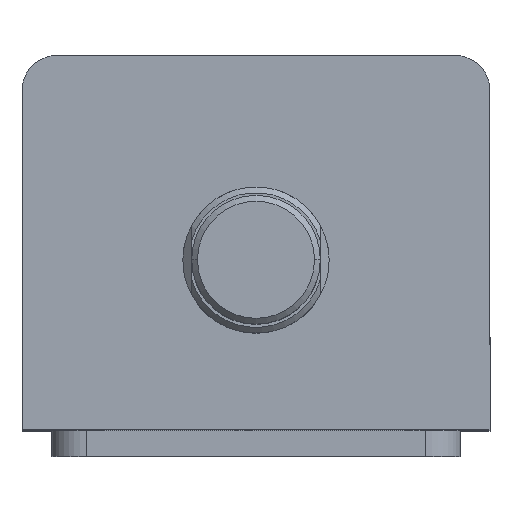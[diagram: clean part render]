
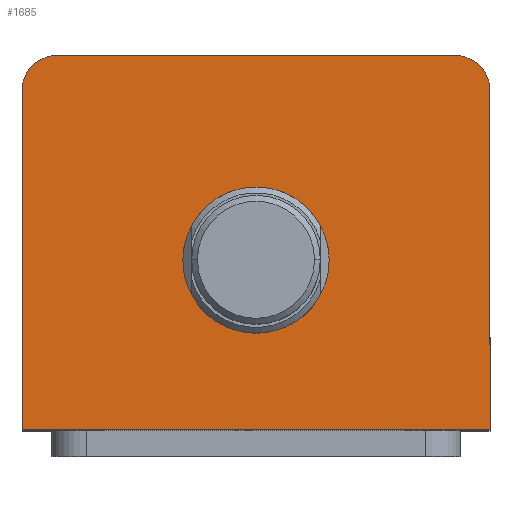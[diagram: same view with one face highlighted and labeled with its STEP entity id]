
A CAD part, top view. The second image highlights one B-rep face of the part: STEP entity #1685.
In plain terms, the highlighted planar face has unit normal (0, 0, 1).
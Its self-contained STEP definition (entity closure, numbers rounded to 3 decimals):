
#2 = CARTESIAN_POINT ( 'NONE',  ( 34., 26., 130. ) ) ;
#14 = DIRECTION ( 'NONE',  ( 0., 0., 1. ) ) ;
#23 = DIRECTION ( 'NONE',  ( 1., 0., 0. ) ) ;
#65 = CARTESIAN_POINT ( 'NONE',  ( -34., 26., 130. ) ) ;
#70 = DIRECTION ( 'NONE',  ( 0., 0., 1. ) ) ;
#72 = DIRECTION ( 'NONE',  ( 1., 0., 0. ) ) ;
#96 = DIRECTION ( 'NONE',  ( 0., 1., 0. ) ) ;
#100 = CARTESIAN_POINT ( 'NONE',  ( 40., 32., 130. ) ) ;
#254 = FACE_BOUND ( 'NONE', #2397, .T. ) ;
#262 = FACE_OUTER_BOUND ( 'NONE', #2385, .T. ) ;
#363 = LINE ( 'NONE', #2976, #366 ) ;
#366 = VECTOR ( 'NONE', #3037, 1000. ) ;
#369 = CIRCLE ( 'NONE', #2789, 12.5 ) ;
#460 = CIRCLE ( 'NONE', #2819, 6. ) ;
#461 = LINE ( 'NONE', #100, #463 ) ;
#463 = VECTOR ( 'NONE', #96, 1000. ) ;
#470 = CIRCLE ( 'NONE', #2829, 6. ) ;
#815 = DIRECTION ( 'NONE',  ( 1., 0., 0. ) ) ;
#816 = DIRECTION ( 'NONE',  ( 0., 0., 1. ) ) ;
#834 = CARTESIAN_POINT ( 'NONE',  ( 0., 0., 130. ) ) ;
#839 = PLANE ( 'NONE',  #1209 ) ;
#1209 = AXIS2_PLACEMENT_3D ( 'NONE', #834, #816, #815 ) ;
#1509 = EDGE_CURVE ( 'NONE', #2192, #2185, #2612, .T. ) ;
#1553 = EDGE_CURVE ( 'NONE', #2254, #2234, #2650, .T. ) ;
#1569 = EDGE_CURVE ( 'NONE', #2343, #2269, #2682, .T. ) ;
#1685 = ADVANCED_FACE ( 'NONE', ( #254, #262 ), #839, .T. ) ;
#1869 = ORIENTED_EDGE ( 'NONE', *, *, #3697, .T. ) ;
#1870 = ORIENTED_EDGE ( 'NONE', *, *, #3687, .T. ) ;
#1871 = ORIENTED_EDGE ( 'NONE', *, *, #1553, .T. ) ;
#1872 = ORIENTED_EDGE ( 'NONE', *, *, #2741, .T. ) ;
#1873 = ORIENTED_EDGE ( 'NONE', *, *, #3686, .T. ) ;
#1874 = ORIENTED_EDGE ( 'NONE', *, *, #1569, .T. ) ;
#1875 = ORIENTED_EDGE ( 'NONE', *, *, #1509, .F. ) ;
#1876 = ORIENTED_EDGE ( 'NONE', *, *, #2744, .F. ) ;
#2185 = VERTEX_POINT ( 'NONE', #3312 ) ;
#2192 = VERTEX_POINT ( 'NONE', #3307 ) ;
#2208 = VERTEX_POINT ( 'NONE', #3291 ) ;
#2234 = VERTEX_POINT ( 'NONE', #3264 ) ;
#2254 = VERTEX_POINT ( 'NONE', #3242 ) ;
#2269 = VERTEX_POINT ( 'NONE', #3227 ) ;
#2278 = VERTEX_POINT ( 'NONE', #3218 ) ;
#2343 = VERTEX_POINT ( 'NONE', #3146 ) ;
#2385 = EDGE_LOOP ( 'NONE', ( #1874, #1873, #1872, #1871, #1870, #1869 ) ) ;
#2397 = EDGE_LOOP ( 'NONE', ( #1876, #1875 ) ) ;
#2612 = CIRCLE ( 'NONE', #2722, 12.5 ) ;
#2650 = LINE ( 'NONE', #3553, #2657 ) ;
#2657 = VECTOR ( 'NONE', #3542, 1000. ) ;
#2682 = LINE ( 'NONE', #3494, #2685 ) ;
#2685 = VECTOR ( 'NONE', #3493, 1000. ) ;
#2722 = AXIS2_PLACEMENT_3D ( 'NONE', #3631, #3630, #3629 ) ;
#2741 = EDGE_CURVE ( 'NONE', #2208, #2254, #363, .T. ) ;
#2744 = EDGE_CURVE ( 'NONE', #2185, #2192, #369, .T. ) ;
#2789 = AXIS2_PLACEMENT_3D ( 'NONE', #2956, #3048, #3049 ) ;
#2819 = AXIS2_PLACEMENT_3D ( 'NONE', #65, #70, #72 ) ;
#2829 = AXIS2_PLACEMENT_3D ( 'NONE', #2, #14, #23 ) ;
#2956 = CARTESIAN_POINT ( 'NONE',  ( 0., -3., 130. ) ) ;
#2976 = CARTESIAN_POINT ( 'NONE',  ( -40., 32., 130. ) ) ;
#3037 = DIRECTION ( 'NONE',  ( 0., -1., 0. ) ) ;
#3048 = DIRECTION ( 'NONE',  ( 0., 0., 1. ) ) ;
#3049 = DIRECTION ( 'NONE',  ( 1., 0., 0. ) ) ;
#3146 = CARTESIAN_POINT ( 'NONE',  ( 34., 32., 130. ) ) ;
#3218 = CARTESIAN_POINT ( 'NONE',  ( 40., 26., 130. ) ) ;
#3227 = CARTESIAN_POINT ( 'NONE',  ( -34., 32., 130. ) ) ;
#3242 = CARTESIAN_POINT ( 'NONE',  ( -40., -32., 130. ) ) ;
#3264 = CARTESIAN_POINT ( 'NONE',  ( 40., -32., 130. ) ) ;
#3291 = CARTESIAN_POINT ( 'NONE',  ( -40., 26., 130. ) ) ;
#3307 = CARTESIAN_POINT ( 'NONE',  ( -12.5, -3., 130. ) ) ;
#3312 = CARTESIAN_POINT ( 'NONE',  ( 12.5, -3., 130. ) ) ;
#3493 = DIRECTION ( 'NONE',  ( -1., 0., 0. ) ) ;
#3494 = CARTESIAN_POINT ( 'NONE',  ( -40., 32., 130. ) ) ;
#3542 = DIRECTION ( 'NONE',  ( 1., 0., 0. ) ) ;
#3553 = CARTESIAN_POINT ( 'NONE',  ( -40., -32., 130. ) ) ;
#3629 = DIRECTION ( 'NONE',  ( 1., 0., 0. ) ) ;
#3630 = DIRECTION ( 'NONE',  ( 0., 0., 1. ) ) ;
#3631 = CARTESIAN_POINT ( 'NONE',  ( 0., -3., 130. ) ) ;
#3686 = EDGE_CURVE ( 'NONE', #2269, #2208, #460, .T. ) ;
#3687 = EDGE_CURVE ( 'NONE', #2234, #2278, #461, .T. ) ;
#3697 = EDGE_CURVE ( 'NONE', #2278, #2343, #470, .T. ) ;
